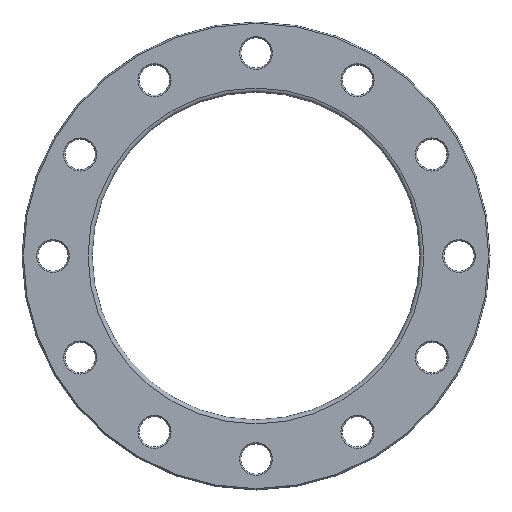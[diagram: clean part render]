
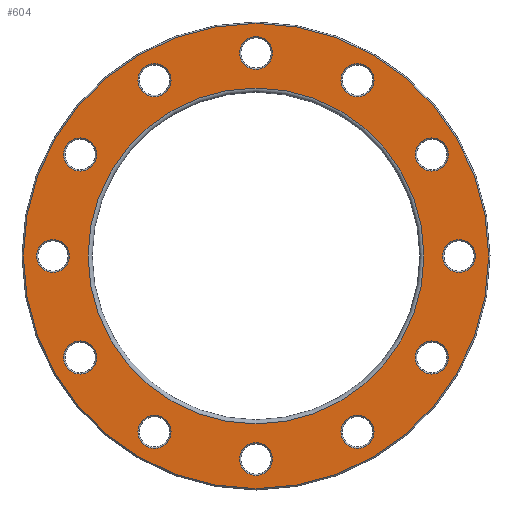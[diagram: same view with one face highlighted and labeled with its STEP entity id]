
A CAD part, front view. The second image highlights one B-rep face of the part: STEP entity #604.
In plain terms, the highlighted planar face has unit normal (0, -1, 0).
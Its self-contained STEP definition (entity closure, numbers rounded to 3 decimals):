
#23=PLANE('',#712);
#134=ORIENTED_EDGE('',*,*,#213,.T.);
#135=ORIENTED_EDGE('',*,*,#214,.T.);
#136=ORIENTED_EDGE('',*,*,#164,.T.);
#137=ORIENTED_EDGE('',*,*,#168,.T.);
#138=ORIENTED_EDGE('',*,*,#172,.T.);
#139=ORIENTED_EDGE('',*,*,#176,.T.);
#140=ORIENTED_EDGE('',*,*,#180,.T.);
#141=ORIENTED_EDGE('',*,*,#184,.T.);
#142=ORIENTED_EDGE('',*,*,#188,.T.);
#143=ORIENTED_EDGE('',*,*,#192,.T.);
#144=ORIENTED_EDGE('',*,*,#196,.T.);
#145=ORIENTED_EDGE('',*,*,#200,.T.);
#146=ORIENTED_EDGE('',*,*,#204,.T.);
#147=ORIENTED_EDGE('',*,*,#215,.T.);
#164=EDGE_CURVE('',#220,#220,#276,.T.);
#168=EDGE_CURVE('',#224,#224,#280,.T.);
#172=EDGE_CURVE('',#228,#228,#284,.T.);
#176=EDGE_CURVE('',#232,#232,#288,.T.);
#180=EDGE_CURVE('',#236,#236,#292,.T.);
#184=EDGE_CURVE('',#240,#240,#296,.T.);
#188=EDGE_CURVE('',#244,#244,#300,.T.);
#192=EDGE_CURVE('',#248,#248,#304,.T.);
#196=EDGE_CURVE('',#252,#252,#308,.T.);
#200=EDGE_CURVE('',#256,#256,#312,.T.);
#204=EDGE_CURVE('',#260,#260,#316,.T.);
#213=EDGE_CURVE('',#269,#269,#325,.F.);
#214=EDGE_CURVE('',#270,#270,#326,.T.);
#215=EDGE_CURVE('',#271,#271,#327,.T.);
#220=VERTEX_POINT('',#935);
#224=VERTEX_POINT('',#946);
#228=VERTEX_POINT('',#957);
#232=VERTEX_POINT('',#968);
#236=VERTEX_POINT('',#979);
#240=VERTEX_POINT('',#990);
#244=VERTEX_POINT('',#1001);
#248=VERTEX_POINT('',#1012);
#252=VERTEX_POINT('',#1023);
#256=VERTEX_POINT('',#1034);
#260=VERTEX_POINT('',#1045);
#269=VERTEX_POINT('',#1068);
#270=VERTEX_POINT('',#1070);
#271=VERTEX_POINT('',#1072);
#276=CIRCLE('',#629,12.);
#280=CIRCLE('',#636,12.);
#284=CIRCLE('',#643,12.);
#288=CIRCLE('',#650,12.);
#292=CIRCLE('',#657,12.);
#296=CIRCLE('',#664,12.);
#300=CIRCLE('',#671,12.);
#304=CIRCLE('',#678,12.);
#308=CIRCLE('',#685,12.);
#312=CIRCLE('',#692,12.);
#316=CIRCLE('',#699,12.);
#325=CIRCLE('',#713,169.);
#326=CIRCLE('',#714,122.);
#327=CIRCLE('',#715,12.);
#414=EDGE_LOOP('',(#134));
#415=EDGE_LOOP('',(#135));
#416=EDGE_LOOP('',(#136));
#417=EDGE_LOOP('',(#137));
#418=EDGE_LOOP('',(#138));
#419=EDGE_LOOP('',(#139));
#420=EDGE_LOOP('',(#140));
#421=EDGE_LOOP('',(#141));
#422=EDGE_LOOP('',(#142));
#423=EDGE_LOOP('',(#143));
#424=EDGE_LOOP('',(#144));
#425=EDGE_LOOP('',(#145));
#426=EDGE_LOOP('',(#146));
#427=EDGE_LOOP('',(#147));
#526=FACE_BOUND('',#414,.T.);
#527=FACE_BOUND('',#415,.T.);
#528=FACE_BOUND('',#416,.T.);
#529=FACE_BOUND('',#417,.T.);
#530=FACE_BOUND('',#418,.T.);
#531=FACE_BOUND('',#419,.T.);
#532=FACE_BOUND('',#420,.T.);
#533=FACE_BOUND('',#421,.T.);
#534=FACE_BOUND('',#422,.T.);
#535=FACE_BOUND('',#423,.T.);
#536=FACE_BOUND('',#424,.T.);
#537=FACE_BOUND('',#425,.T.);
#538=FACE_BOUND('',#426,.T.);
#539=FACE_BOUND('',#427,.T.);
#604=ADVANCED_FACE('',(#526,#527,#528,#529,#530,#531,#532,#533,#534,#535,
#536,#537,#538,#539),#23,.F.);
#629=AXIS2_PLACEMENT_3D('',#934,#735,#736);
#636=AXIS2_PLACEMENT_3D('',#945,#749,#750);
#643=AXIS2_PLACEMENT_3D('',#956,#763,#764);
#650=AXIS2_PLACEMENT_3D('',#967,#777,#778);
#657=AXIS2_PLACEMENT_3D('',#978,#791,#792);
#664=AXIS2_PLACEMENT_3D('',#989,#805,#806);
#671=AXIS2_PLACEMENT_3D('',#1000,#819,#820);
#678=AXIS2_PLACEMENT_3D('',#1011,#833,#834);
#685=AXIS2_PLACEMENT_3D('',#1022,#847,#848);
#692=AXIS2_PLACEMENT_3D('',#1033,#861,#862);
#699=AXIS2_PLACEMENT_3D('',#1044,#875,#876);
#712=AXIS2_PLACEMENT_3D('',#1066,#901,#902);
#713=AXIS2_PLACEMENT_3D('',#1067,#903,#904);
#714=AXIS2_PLACEMENT_3D('',#1069,#905,#906);
#715=AXIS2_PLACEMENT_3D('',#1071,#907,#908);
#735=DIRECTION('',(0.,1.,0.));
#736=DIRECTION('',(0.866,0.,0.5));
#749=DIRECTION('',(0.,1.,0.));
#750=DIRECTION('',(0.5,0.,0.866));
#763=DIRECTION('',(0.,1.,0.));
#764=DIRECTION('',(0.,0.,1.));
#777=DIRECTION('',(0.,1.,0.));
#778=DIRECTION('',(-0.5,0.,0.866));
#791=DIRECTION('',(0.,1.,0.));
#792=DIRECTION('',(-0.866,0.,0.5));
#805=DIRECTION('',(0.,1.,0.));
#806=DIRECTION('',(-1.,0.,0.));
#819=DIRECTION('',(0.,1.,0.));
#820=DIRECTION('',(-0.866,0.,-0.5));
#833=DIRECTION('',(0.,1.,0.));
#834=DIRECTION('',(-0.5,0.,-0.866));
#847=DIRECTION('',(0.,1.,0.));
#848=DIRECTION('',(0.,0.,-1.));
#861=DIRECTION('',(0.,1.,0.));
#862=DIRECTION('',(0.5,0.,-0.866));
#875=DIRECTION('',(0.,1.,0.));
#876=DIRECTION('',(0.866,0.,-0.5));
#901=DIRECTION('',(0.,1.,0.));
#902=DIRECTION('',(0.,0.,1.));
#903=DIRECTION('',(0.,1.,0.));
#904=DIRECTION('',(0.,0.,1.));
#905=DIRECTION('',(0.,1.,0.));
#906=DIRECTION('',(0.,0.,1.));
#907=DIRECTION('',(0.,1.,0.));
#908=DIRECTION('',(1.,0.,0.));
#934=CARTESIAN_POINT('',(-73.75,0.,127.739));
#935=CARTESIAN_POINT('',(-63.358,0.,133.739));
#945=CARTESIAN_POINT('',(-127.739,0.,73.75));
#946=CARTESIAN_POINT('',(-121.739,0.,84.142));
#956=CARTESIAN_POINT('',(-147.5,0.,0.));
#957=CARTESIAN_POINT('',(-147.5,0.,12.));
#967=CARTESIAN_POINT('',(-127.739,0.,-73.75));
#968=CARTESIAN_POINT('',(-133.739,0.,-63.358));
#978=CARTESIAN_POINT('',(-73.75,0.,-127.739));
#979=CARTESIAN_POINT('',(-84.142,0.,-121.739));
#989=CARTESIAN_POINT('',(0.,0.,-147.5));
#990=CARTESIAN_POINT('',(-12.,0.,-147.5));
#1000=CARTESIAN_POINT('',(73.75,0.,-127.739));
#1001=CARTESIAN_POINT('',(63.358,0.,-133.739));
#1011=CARTESIAN_POINT('',(127.739,0.,-73.75));
#1012=CARTESIAN_POINT('',(121.739,0.,-84.142));
#1022=CARTESIAN_POINT('',(147.5,0.,0.));
#1023=CARTESIAN_POINT('',(147.5,0.,-12.));
#1033=CARTESIAN_POINT('',(127.739,0.,73.75));
#1034=CARTESIAN_POINT('',(133.739,0.,63.358));
#1044=CARTESIAN_POINT('',(73.75,0.,127.739));
#1045=CARTESIAN_POINT('',(84.142,0.,121.739));
#1066=CARTESIAN_POINT('',(0.,0.,0.));
#1067=CARTESIAN_POINT('',(0.,0.,0.));
#1068=CARTESIAN_POINT('',(0.,0.,169.));
#1069=CARTESIAN_POINT('',(0.,0.,0.));
#1070=CARTESIAN_POINT('',(0.,0.,122.));
#1071=CARTESIAN_POINT('',(0.,0.,147.5));
#1072=CARTESIAN_POINT('',(12.,0.,147.5));
